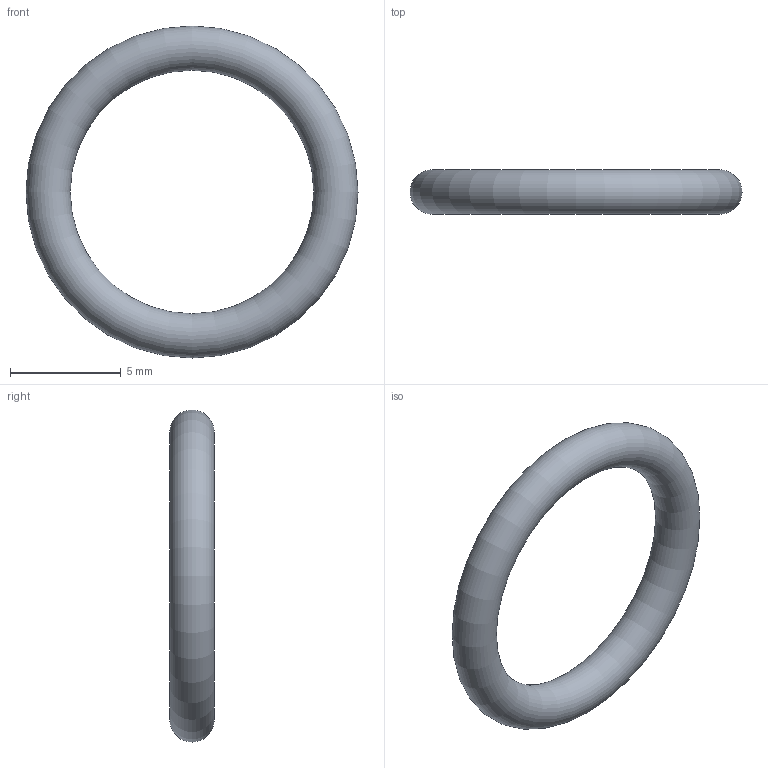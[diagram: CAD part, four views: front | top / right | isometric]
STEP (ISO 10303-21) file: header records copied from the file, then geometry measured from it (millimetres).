
FILE_DESCRIPTION( ( 'STEP AP203' ), '1' );
FILE_NAME( 'C:/Temp/Ganter_Step_05_03_2020/data/3_5/or638/O-Ring OR638-11.00-2.00-70.stp', '2020-03-12T13:44:21', ( 'License CC BY-ND 4.0' ), ( 'CADENAS' ), ' ', 'PARTsolutions', ' ' );
FILE_SCHEMA( ( 'CONFIG_CONTROL_DESIGN' ) );
Length unit declared in the file: millimetre
Products named in the file (1): _O-Ring OR638-11.00-2.00-70
Bounding box: 15 x 2 x 15 mm (x, y, z)
Volume: 128.3 mm3; surface area: 256.6 mm2
Topology: 1 solids, 1 shells, 1 faces, 2 edges, 1 vertices
Faces by surface type: torus 1
Entity records: 62 total; most frequent: CC_DESIGN_PERSON_AND_ORGANIZATION_ASSIGNMENT 5, PERSON_AND_ORGANIZATION_ROLE 4, DIRECTION 4, CARTESIAN_POINT 3, DATE_TIME_ROLE 2, CC_DESIGN_DATE_AND_TIME_ASSIGNMENT 2, AXIS2_PLACEMENT_3D 2, DIMENSIONAL_EXPONENTS 2
